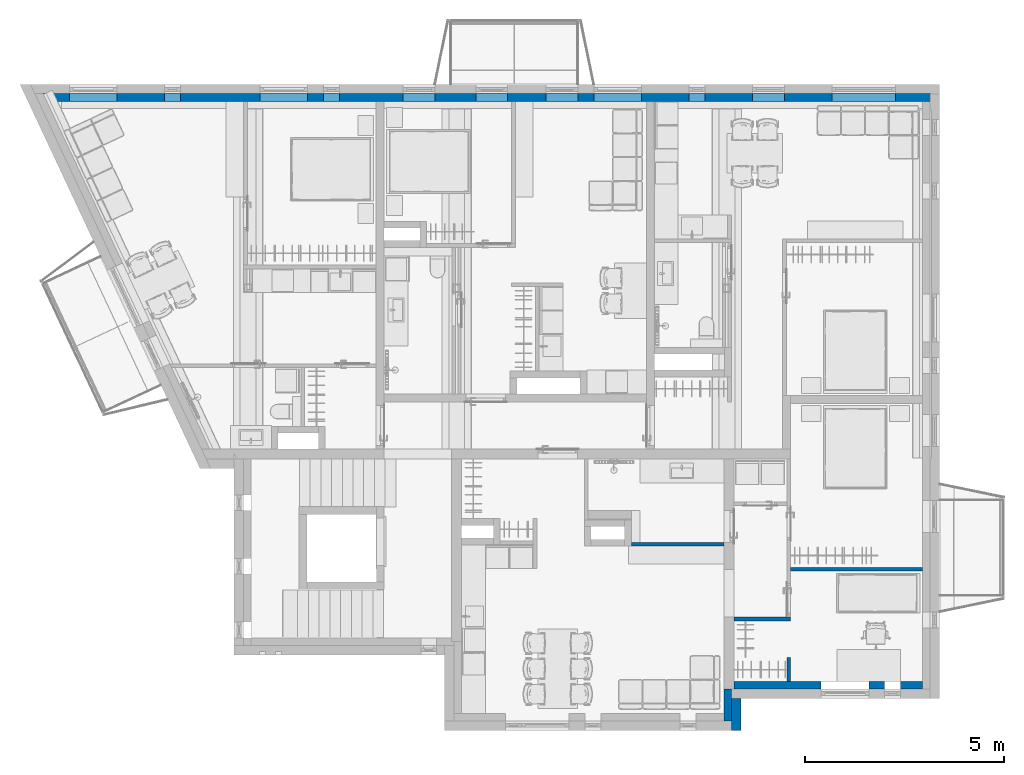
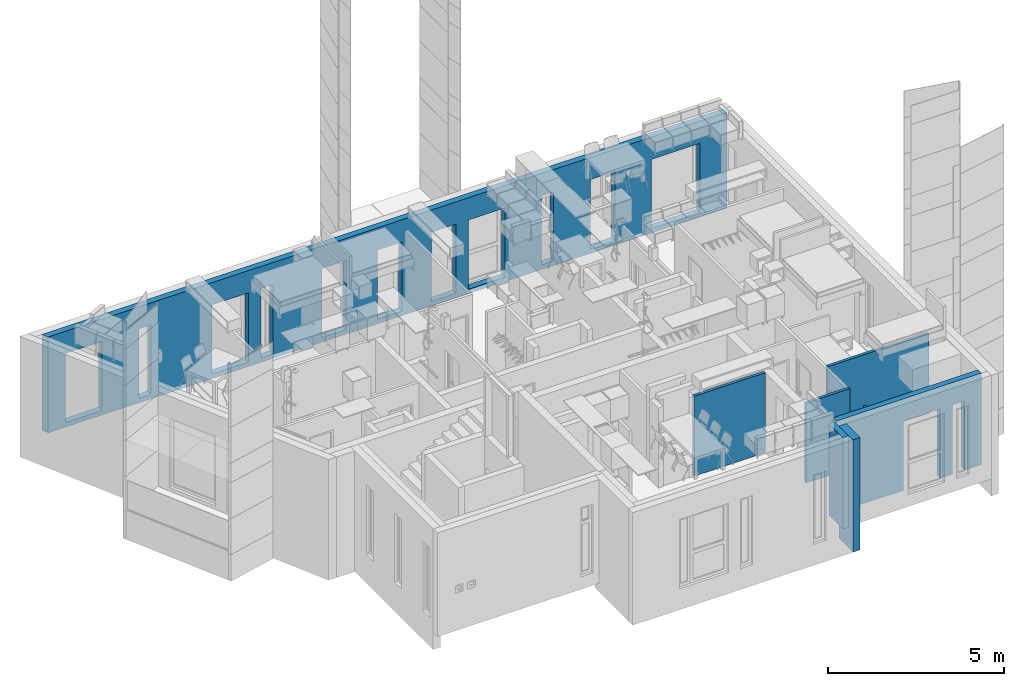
# One storey, part 6 of 125: 8 walls, 26 openings.
"""IFC2X3 building model written with IfcOpenShell, lengths in millimetres."""

from ifc_helpers import new_model, entity, si_unit, converted_unit, direction, frame, frame_2d, origin, place, context, subcontext, project, spatial, polyline, rectangle, outline, extrude, faceted_brep, material, layer, layer_set, layer_usage, type_object, element, save


model = new_model("IFC2X3")

# Units and contexts
model_context = context("Model", 3, precision=0.01, world=origin(), true_north=direction((6.123233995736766e-17, 1.0)))
plan_context = context("Plan", 3, precision=0.01, world=origin(), true_north=direction((6.123233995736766e-17, 1.0)))
body_context = subcontext(model_context, "Body", "Model", "MODEL_VIEW")
ifc_project = project(units=[si_unit("LENGTHUNIT", "METRE", prefix="MILLI"), converted_unit("PLANEANGLEUNIT", "DEGREE", entity("IfcPlaneAngleMeasure", 0.017453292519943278), si_unit("PLANEANGLEUNIT", "RADIAN"), dimensions=[0, 0, 0, 0, 0, 0, 0]), si_unit("AREAUNIT", "SQUARE_METRE")], contexts=[model_context, plan_context])

# Site, building, storey
site_placement = place(None, origin())
site = spatial("IfcSite", under=ifc_project, at=site_placement, Name="Default", CompositionType="ELEMENT")
building_placement = place(site_placement, origin())
building = spatial("IfcBuilding", under=site, at=building_placement, CompositionType="ELEMENT")
storey_placement = place(building_placement, frame((0.0, 0.0, 3125.0)))
storey = spatial("IfcBuildingStorey", under=building, at=storey_placement, Name="2K", CompositionType="ELEMENT", Elevation=3125.0)

# Wall, openings
ifc_material_1 = material(Name="_K. Väisviimistlus. Krohv. Valge")
ifc_layer_1 = layer(ifc_material_1, 5.0)
ifc_material_2 = material(Name="_K. Müüritis. Väikeplokk. Betoon-õõnesplokk")
ifc_layer_2 = layer(ifc_material_2, 190.00000000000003)
ifc_layer_3 = layer(ifc_material_1, 5.0)
ifc_layer_set_1 = layer_set([ifc_layer_1, ifc_layer_2, ifc_layer_3], Name="Basic Wall:SS-01. 190")
ifc_layer_usage_1 = layer_usage(ifc_layer_set_1, "AXIS2", "NEGATIVE", 100.00000000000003)
wall_type_1 = type_object("IfcWallType", Name="Basic Wall:SS-01. 190", PredefinedType="STANDARD", material=ifc_layer_set_1)
wall_1_placement = place(storey_placement, frame((-5235.819995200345, 15500.0, -154.99979782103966)))
wall_1 = element("IfcWallStandardCase", 1, at=wall_1_placement, inside=storey, type_object=wall_type_1, material=ifc_layer_usage_1, Name="Basic Wall:SS-01. 190", ObjectType="Basic Wall:SS-01. 190", context=body_context, shape_type="SweptSolid", body=[
    extrude(outline(polyline([(22335.81999520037, -100.0), (22335.81999520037, 90.0), (22335.81999520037, 100.0), (22205.81999521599, 100.0), (462.2403184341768, 100.0), (0.0, 100.0), (93.74999994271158, -100.0), (15185.819995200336, -100.0), (15385.819995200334, -100.0), (22135.819995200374, -100.0), (22325.819995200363, -100.0), (22335.81999520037, -100.0)])), origin(), (0.0, 0.0, 1.0), 3324.999797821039),
])
opening_1_placement = place(wall_1_placement, frame((5235.819995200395, -15500.0, 154.99979782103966)))
element("IfcOpeningElement", 2, at=opening_1_placement, cuts=wall_1, Name="Basic Wall:SS-01. 190", ObjectType="Opening", context=body_context, shape_type="Brep", body=[
    faceted_brep([(-1775.0, 15850.0, 2400.0), (-1775.0, 15156.0, 2400.0), (-1775.0, 15156.0, 0.0), (-1775.0, 15740.0, 0.0), (-1775.0, 15750.0, 0.0), (-1775.0, 15850.0, 0.0), (-2175.0, 15850.0, 2400.0), (-2175.0, 15156.0, 2400.0), (-2175.0, 15850.0, 0.0), (-2175.0, 15750.0, 0.0), (-2175.0, 15740.0, 0.0), (-2175.0, 15156.0, 0.0)], [[[0, 1, 2, 3, 4, 5]], [[6, 7, 1, 0]], [[8, 9, 10, 11, 7, 6]], [[5, 4, 3, 2, 11, 10, 9, 8]], [[6, 0, 5, 8]], [[7, 11, 2, 1]]]),
])
opening_2_placement = place(wall_1_placement, frame((5235.819995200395, -15500.0, 154.99979782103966)))
element("IfcOpeningElement", 3, at=opening_2_placement, cuts=wall_1, Name="Basic Wall:SS-01. 190", ObjectType="Opening", context=body_context, shape_type="Brep", body=[
    faceted_brep([(225.0, 15850.0, 2400.0), (1425.0, 15850.0, 2400.0), (1425.0, 15850.0, 0.0), (225.0, 15850.0, 0.0), (1425.0, 15156.0, 2400.0), (1425.0, 15156.0, 0.0), (1425.0, 15740.0, 0.0), (1425.0, 15750.0, 0.0), (225.0, 15156.0, 2400.0), (225.0, 15750.0, 0.0), (225.0, 15740.0, 0.0), (225.0, 15156.0, 0.0)], [[[0, 1, 2, 3]], [[1, 4, 5, 6, 7, 2]], [[0, 8, 4, 1]], [[3, 9, 10, 11, 8, 0]], [[2, 7, 6, 5, 11, 10, 9, 3]], [[8, 11, 5, 4]]]),
])
opening_3_placement = place(wall_1_placement, frame((5235.819995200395, -15500.0, 154.99979782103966)))
element("IfcOpeningElement", 4, at=opening_3_placement, cuts=wall_1, Name="Basic Wall:SS-01. 190", ObjectType="Opening", context=body_context, shape_type="Brep", body=[
    faceted_brep([(-4575.0, 15850.0, 2400.0), (-3375.0, 15850.0, 2400.0), (-3375.0, 15850.0, 0.0), (-4575.0, 15850.0, 0.0), (-3375.0, 15156.0, 2400.0), (-3375.0, 15156.0, 0.0), (-3375.0, 15740.0, 0.0), (-3375.0, 15750.0, 0.0), (-4575.0, 15156.0, 2400.0), (-4575.0, 15750.0, 0.0), (-4575.0, 15740.0, 0.0), (-4575.0, 15156.0, 0.0)], [[[0, 1, 2, 3]], [[1, 4, 5, 6, 7, 2]], [[0, 8, 4, 1]], [[3, 9, 10, 11, 8, 0]], [[2, 7, 6, 5, 11, 10, 9, 3]], [[8, 11, 5, 4]]]),
])
opening_4_placement = place(wall_1_placement, frame((5235.819995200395, -15500.0, 154.99979782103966)))
element("IfcOpeningElement", 5, at=opening_4_placement, cuts=wall_1, Name="Basic Wall:SS-01. 190", ObjectType="Opening", context=body_context, shape_type="Brep", body=[
    faceted_brep([(2225.0, 15850.0, 2400.0), (2225.0, 15156.0, 2400.0), (2225.0, 15156.0, 0.0), (2225.0, 15740.0, 0.0), (2225.0, 15750.0, 0.0), (2225.0, 15850.0, 0.0), (1825.0, 15850.0, 2400.0), (1825.0, 15156.0, 2400.0), (1825.0, 15850.0, 0.0), (1825.0, 15750.0, 0.0), (1825.0, 15740.0, 0.0), (1825.0, 15156.0, 0.0)], [[[0, 1, 2, 3, 4, 5]], [[6, 7, 1, 0]], [[8, 9, 10, 11, 7, 6]], [[5, 4, 3, 2, 11, 10, 9, 8]], [[6, 0, 5, 8]], [[7, 11, 2, 1]]]),
])
opening_5_placement = place(wall_1_placement, frame((5235.819995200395, -15500.0, 154.99979782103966)))
element("IfcOpeningElement", 6, at=opening_5_placement, cuts=wall_1, Name="Basic Wall:SS-01. 190", ObjectType="Opening", context=body_context, shape_type="Brep", body=[
    faceted_brep([(4625.0, 15850.0, 2400.0), (4625.0, 15156.0, 2400.0), (4625.0, 15156.0, 0.0), (4625.0, 15740.0, 0.0), (4625.0, 15750.0, 0.0), (4625.0, 15850.0, 0.0), (3825.0, 15850.0, 2400.0), (3825.0, 15156.0, 2400.0), (3825.0, 15850.0, 0.0), (3825.0, 15750.0, 0.0), (3825.0, 15740.0, 0.0), (3825.0, 15156.0, 0.0)], [[[0, 1, 2, 3, 4, 5]], [[6, 7, 1, 0]], [[8, 9, 10, 11, 7, 6]], [[5, 4, 3, 2, 11, 10, 9, 8]], [[6, 0, 5, 8]], [[7, 11, 2, 1]]]),
])
opening_6_placement = place(wall_1_placement, frame((5235.819995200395, -15500.0, 154.99979782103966)))
element("IfcOpeningElement", 7, at=opening_6_placement, cuts=wall_1, Name="Basic Wall:SS-01. 190", ObjectType="Opening", context=body_context, shape_type="Brep", body=[
    faceted_brep([(6455.0, 15850.0, 2400.0), (6455.0, 15156.0, 2400.0), (6455.0, 15156.0, 0.0), (6455.0, 15740.0, 0.0), (6455.0, 15750.0, 0.0), (6455.0, 15850.0, 0.0), (5655.0, 15850.0, 2400.0), (5655.0, 15156.0, 2400.0), (5655.0, 15850.0, 0.0), (5655.0, 15750.0, 0.0), (5655.0, 15740.0, 0.0), (5655.0, 15156.0, 0.0)], [[[0, 1, 2, 3, 4, 5]], [[6, 7, 1, 0]], [[8, 9, 10, 11, 7, 6]], [[5, 4, 3, 2, 11, 10, 9, 8]], [[6, 0, 5, 8]], [[7, 11, 2, 1]]]),
])
opening_7_placement = place(wall_1_placement, frame((5235.819995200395, -15500.0, 154.99979782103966)))
element("IfcOpeningElement", 8, at=opening_7_placement, cuts=wall_1, Name="Basic Wall:SS-01. 190", ObjectType="Opening", context=body_context, shape_type="Brep", body=[
    faceted_brep([(8225.0, 15850.0, 2400.0), (8225.0, 15156.0, 2400.0), (8225.0, 15156.0, 0.0), (8225.0, 15740.0, 0.0), (8225.0, 15750.0, 0.0), (8225.0, 15850.0, 0.0), (7425.0, 15850.0, 2400.0), (7425.0, 15156.0, 2400.0), (7425.0, 15850.0, 0.0), (7425.0, 15750.0, 0.0), (7425.0, 15740.0, 0.0), (7425.0, 15156.0, 0.0)], [[[0, 1, 2, 3, 4, 5]], [[6, 7, 1, 0]], [[8, 9, 10, 11, 7, 6]], [[5, 4, 3, 2, 11, 10, 9, 8]], [[6, 0, 5, 8]], [[7, 11, 2, 1]]]),
])
opening_8_placement = place(wall_1_placement, frame((5235.819995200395, -15500.0, 154.99979782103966)))
element("IfcOpeningElement", 9, at=opening_8_placement, cuts=wall_1, Name="Basic Wall:SS-01. 190", ObjectType="Opening", context=body_context, shape_type="Brep", body=[
    faceted_brep([(9825.0, 15850.0, 2400.0), (9825.0, 15156.0, 2400.0), (9825.0, 15156.0, 0.0), (9825.0, 15740.0, 0.0), (9825.0, 15750.0, 0.0), (9825.0, 15850.0, 0.0), (8625.0, 15850.0, 2400.0), (8625.0, 15156.0, 2400.0), (8625.0, 15850.0, 0.0), (8625.0, 15750.0, 0.0), (8625.0, 15740.0, 0.0), (8625.0, 15156.0, 0.0)], [[[0, 1, 2, 3, 4, 5]], [[6, 7, 1, 0]], [[8, 9, 10, 11, 7, 6]], [[5, 4, 3, 2, 11, 10, 9, 8]], [[6, 0, 5, 8]], [[7, 11, 2, 1]]]),
])
opening_9_placement = place(wall_1_placement, frame((5235.819995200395, -15500.0, 154.99979782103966)))
element("IfcOpeningElement", 10, at=opening_9_placement, cuts=wall_1, Name="Basic Wall:SS-01. 190", ObjectType="Opening", context=body_context, shape_type="Brep", body=[
    faceted_brep([(11425.0, 15850.0, 2400.0), (11425.0, 15156.0, 2400.0), (11425.0, 15156.0, 0.0), (11425.0, 15740.0, 0.0), (11425.0, 15750.0, 0.0), (11425.0, 15850.0, 0.0), (11025.0, 15850.0, 2400.0), (11025.0, 15156.0, 2400.0), (11025.0, 15850.0, 0.0), (11025.0, 15750.0, 0.0), (11025.0, 15740.0, 0.0), (11025.0, 15156.0, 0.0)], [[[0, 1, 2, 3, 4, 5]], [[6, 7, 1, 0]], [[8, 9, 10, 11, 7, 6]], [[5, 4, 3, 2, 11, 10, 9, 8]], [[6, 0, 5, 8]], [[7, 11, 2, 1]]]),
])
opening_10_placement = place(wall_1_placement, frame((5235.819995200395, -15500.0, 154.99979782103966)))
element("IfcOpeningElement", 11, at=opening_10_placement, cuts=wall_1, Name="Basic Wall:SS-01. 190", ObjectType="Opening", context=body_context, shape_type="Brep", body=[
    faceted_brep([(13425.0, 15850.0, 2400.0), (13425.0, 15156.0, 2400.0), (13425.0, 15156.0, 0.0), (13425.0, 15740.0, 0.0), (13425.0, 15750.0, 0.0), (13425.0, 15850.0, 0.0), (12625.0, 15850.0, 2400.0), (12625.0, 15156.0, 2400.0), (12625.0, 15850.0, 0.0), (12625.0, 15750.0, 0.0), (12625.0, 15740.0, 0.0), (12625.0, 15156.0, 0.0)], [[[0, 1, 2, 3, 4, 5]], [[6, 7, 1, 0]], [[8, 9, 10, 11, 7, 6]], [[5, 4, 3, 2, 11, 10, 9, 8]], [[6, 0, 5, 8]], [[7, 11, 2, 1]]]),
])
opening_11_placement = place(wall_1_placement, frame((5235.819995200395, -15500.0, 154.99979782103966)))
element("IfcOpeningElement", 12, at=opening_11_placement, cuts=wall_1, Name="Basic Wall:SS-01. 190", ObjectType="Opening", context=body_context, shape_type="Brep", body=[
    faceted_brep([(16225.0, 15850.0, 2400.0), (16225.0, 15156.0, 2400.0), (16225.0, 15156.0, 0.0), (16225.0, 15740.0, 0.0), (16225.0, 15750.0, 0.0), (16225.0, 15850.0, 0.0), (14625.0, 15850.0, 2400.0), (14625.0, 15156.0, 2400.0), (14625.0, 15850.0, 0.0), (14625.0, 15750.0, 0.0), (14625.0, 15740.0, 0.0), (14625.0, 15156.0, 0.0)], [[[0, 1, 2, 3, 4, 5]], [[6, 7, 1, 0]], [[8, 9, 10, 11, 7, 6]], [[5, 4, 3, 2, 11, 10, 9, 8]], [[6, 0, 5, 8]], [[7, 11, 2, 1]]]),
])
opening_12_placement = place(wall_1_placement, frame((5235.819995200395, -15500.0, 3324.9997978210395)))
element("IfcOpeningElement", 13, at=opening_12_placement, cuts=wall_1, Name="Basic Wall:SS-01. 190", ObjectType="Opening", context=body_context, shape_type="Brep", body=[
    faceted_brep([(-2255.0, 15850.0, 2400.0), (-2255.0, 15156.0, 2400.0), (-2255.0, 15156.0, 0.0), (-2255.0, 15740.0, 0.0), (-2255.0, 15750.0, 0.0), (-2255.0, 15850.0, 0.0), (-3455.0, 15850.0, 2400.0), (-3455.0, 15156.0, 2400.0), (-3455.0, 15850.0, 0.0), (-3455.0, 15750.0, 0.0), (-3455.0, 15740.0, 0.0), (-3455.0, 15156.0, 0.0)], [[[0, 1, 2, 3, 4, 5]], [[6, 7, 1, 0]], [[8, 9, 10, 11, 7, 6]], [[5, 4, 3, 2, 11, 10, 9, 8]], [[6, 0, 5, 8]], [[7, 11, 2, 1]]]),
])
opening_13_placement = place(wall_1_placement, frame((5235.819995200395, -15500.0, 3324.9997978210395)))
element("IfcOpeningElement", 14, at=opening_13_placement, cuts=wall_1, Name="Basic Wall:SS-01. 190", ObjectType="Opening", context=body_context, shape_type="Brep", body=[
    faceted_brep([(1745.0, 15850.0, 2400.0), (1745.0, 15156.0, 2400.0), (1745.0, 15156.0, 0.0), (1745.0, 15740.0, 0.0), (1745.0, 15750.0, 0.0), (1745.0, 15850.0, 0.0), (545.0, 15850.0, 2400.0), (545.0, 15156.0, 2400.0), (545.0, 15850.0, 0.0), (545.0, 15750.0, 0.0), (545.0, 15740.0, 0.0), (545.0, 15156.0, 0.0)], [[[0, 1, 2, 3, 4, 5]], [[6, 7, 1, 0]], [[8, 9, 10, 11, 7, 6]], [[5, 4, 3, 2, 11, 10, 9, 8]], [[6, 0, 5, 8]], [[7, 11, 2, 1]]]),
])
opening_14_placement = place(wall_1_placement, frame((5235.819995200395, -15500.0, 3324.9997978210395)))
element("IfcOpeningElement", 15, at=opening_14_placement, cuts=wall_1, Name="Basic Wall:SS-01. 190", ObjectType="Opening", context=body_context, shape_type="Brep", body=[
    faceted_brep([(4625.0, 15850.0, 2400.0), (4625.0, 15156.0, 2400.0), (4625.0, 15156.0, 0.0), (4625.0, 15740.0, 0.0), (4625.0, 15750.0, 0.0), (4625.0, 15850.0, 0.0), (3825.0, 15850.0, 2400.0), (3825.0, 15156.0, 2400.0), (3825.0, 15850.0, 0.0), (3825.0, 15750.0, 0.0), (3825.0, 15740.0, 0.0), (3825.0, 15156.0, 0.0)], [[[0, 1, 2, 3, 4, 5]], [[6, 7, 1, 0]], [[8, 9, 10, 11, 7, 6]], [[5, 4, 3, 2, 11, 10, 9, 8]], [[6, 0, 5, 8]], [[7, 11, 2, 1]]]),
])
opening_15_placement = place(wall_1_placement, frame((5235.819995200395, -15500.0, 3324.9997978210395)))
element("IfcOpeningElement", 16, at=opening_15_placement, cuts=wall_1, Name="Basic Wall:SS-01. 190", ObjectType="Opening", context=body_context, shape_type="Brep", body=[
    faceted_brep([(6455.0, 15850.0, 2400.0), (6455.0, 15156.0, 2400.0), (6455.0, 15156.0, 0.0), (6455.0, 15740.0, 0.0), (6455.0, 15750.0, 0.0), (6455.0, 15850.0, 0.0), (5655.0, 15850.0, 2400.0), (5655.0, 15156.0, 2400.0), (5655.0, 15850.0, 0.0), (5655.0, 15750.0, 0.0), (5655.0, 15740.0, 0.0), (5655.0, 15156.0, 0.0)], [[[0, 1, 2, 3, 4, 5]], [[6, 7, 1, 0]], [[8, 9, 10, 11, 7, 6]], [[5, 4, 3, 2, 11, 10, 9, 8]], [[6, 0, 5, 8]], [[7, 11, 2, 1]]]),
])
opening_16_placement = place(wall_1_placement, frame((5235.819995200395, -15500.0, 3324.9997978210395)))
element("IfcOpeningElement", 17, at=opening_16_placement, cuts=wall_1, Name="Basic Wall:SS-01. 190", ObjectType="Opening", context=body_context, shape_type="Brep", body=[
    faceted_brep([(8225.0, 15850.0, 2400.0), (8225.0, 15156.0, 2400.0), (8225.0, 15156.0, 0.0), (8225.0, 15740.0, 0.0), (8225.0, 15750.0, 0.0), (8225.0, 15850.0, 0.0), (7425.0, 15850.0, 2400.0), (7425.0, 15156.0, 2400.0), (7425.0, 15850.0, 0.0), (7425.0, 15750.0, 0.0), (7425.0, 15740.0, 0.0), (7425.0, 15156.0, 0.0)], [[[0, 1, 2, 3, 4, 5]], [[6, 7, 1, 0]], [[8, 9, 10, 11, 7, 6]], [[5, 4, 3, 2, 11, 10, 9, 8]], [[6, 0, 5, 8]], [[7, 11, 2, 1]]]),
])
opening_17_placement = place(wall_1_placement, frame((5235.819995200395, -15500.0, 3324.9997978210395)))
element("IfcOpeningElement", 18, at=opening_17_placement, cuts=wall_1, Name="Basic Wall:SS-01. 190", ObjectType="Opening", context=body_context, shape_type="Brep", body=[
    faceted_brep([(9825.0, 15850.0, 2400.0), (9825.0, 15156.0, 2400.0), (9825.0, 15156.0, 0.0), (9825.0, 15740.0, 0.0), (9825.0, 15750.0, 0.0), (9825.0, 15850.0, 0.0), (8625.0, 15850.0, 2400.0), (8625.0, 15156.0, 2400.0), (8625.0, 15850.0, 0.0), (8625.0, 15750.0, 0.0), (8625.0, 15740.0, 0.0), (8625.0, 15156.0, 0.0)], [[[0, 1, 2, 3, 4, 5]], [[6, 7, 1, 0]], [[8, 9, 10, 11, 7, 6]], [[5, 4, 3, 2, 11, 10, 9, 8]], [[6, 0, 5, 8]], [[7, 11, 2, 1]]]),
])
opening_18_placement = place(wall_1_placement, frame((5235.819995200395, -15500.0, 3324.9997978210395)))
element("IfcOpeningElement", 19, at=opening_18_placement, cuts=wall_1, Name="Basic Wall:SS-01. 190", ObjectType="Opening", context=body_context, shape_type="Brep", body=[
    faceted_brep([(14545.0, 15850.0, 2400.0), (14545.0, 15156.0, 2400.0), (14545.0, 15156.0, 0.0), (14545.0, 15740.0, 0.0), (14545.0, 15750.0, 0.0), (14545.0, 15850.0, 0.0), (13345.0, 15850.0, 2400.0), (13345.0, 15156.0, 2400.0), (13345.0, 15850.0, 0.0), (13345.0, 15750.0, 0.0), (13345.0, 15740.0, 0.0), (13345.0, 15156.0, 0.0)], [[[0, 1, 2, 3, 4, 5]], [[6, 7, 1, 0]], [[8, 9, 10, 11, 7, 6]], [[5, 4, 3, 2, 11, 10, 9, 8]], [[6, 0, 5, 8]], [[7, 11, 2, 1]]]),
])
opening_19_placement = place(wall_1_placement, frame((5235.819995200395, -15500.0, 3324.9997978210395)))
element("IfcOpeningElement", 20, at=opening_19_placement, cuts=wall_1, Name="Basic Wall:SS-01. 190", ObjectType="Opening", context=body_context, shape_type="Brep", body=[
    faceted_brep([(-4655.0, 15850.0, 2400.0), (-4655.0, 15156.0, 2400.0), (-4655.0, 15156.0, 0.0), (-4655.0, 15740.0, 0.0), (-4655.0, 15750.0, 0.0), (-4655.0, 15850.0, 0.0), (-5055.0, 15850.0, 2400.0), (-5055.0, 15156.0, 2400.0), (-5055.0, 15850.0, 0.0), (-5055.0, 15750.0, 0.0), (-5055.0, 15740.0, 0.0), (-5055.0, 15156.0, 0.0)], [[[0, 1, 2, 3, 4, 5]], [[6, 7, 1, 0]], [[8, 9, 10, 11, 7, 6]], [[5, 4, 3, 2, 11, 10, 9, 8]], [[6, 0, 5, 8]], [[7, 11, 2, 1]]]),
])
opening_20_placement = place(wall_1_placement, frame((5235.819995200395, -15500.0, 3324.9997978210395)))
element("IfcOpeningElement", 21, at=opening_20_placement, cuts=wall_1, Name="Basic Wall:SS-01. 190", ObjectType="Opening", context=body_context, shape_type="Brep", body=[
    faceted_brep([(2545.0, 15850.0, 2400.0), (2545.0, 15156.0, 2400.0), (2545.0, 15156.0, 0.0), (2545.0, 15740.0, 0.0), (2545.0, 15750.0, 0.0), (2545.0, 15850.0, 0.0), (2145.0, 15850.0, 2400.0), (2145.0, 15156.0, 2400.0), (2145.0, 15850.0, 0.0), (2145.0, 15750.0, 0.0), (2145.0, 15740.0, 0.0), (2145.0, 15156.0, 0.0)], [[[0, 1, 2, 3, 4, 5]], [[6, 7, 1, 0]], [[8, 9, 10, 11, 7, 6]], [[5, 4, 3, 2, 11, 10, 9, 8]], [[6, 0, 5, 8]], [[7, 11, 2, 1]]]),
])
opening_21_placement = place(wall_1_placement, frame((5235.819995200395, -15500.0, 3324.9997978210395)))
element("IfcOpeningElement", 22, at=opening_21_placement, cuts=wall_1, Name="Basic Wall:SS-01. 190", ObjectType="Opening", context=body_context, shape_type="Brep", body=[
    faceted_brep([(12545.0, 15850.0, 2400.0), (12545.0, 15156.0, 2400.0), (12545.0, 15156.0, 0.0), (12545.0, 15740.0, 0.0), (12545.0, 15750.0, 0.0), (12545.0, 15850.0, 0.0), (12145.0, 15850.0, 2400.0), (12145.0, 15156.0, 2400.0), (12145.0, 15850.0, 0.0), (12145.0, 15750.0, 0.0), (12145.0, 15740.0, 0.0), (12145.0, 15156.0, 0.0)], [[[0, 1, 2, 3, 4, 5]], [[6, 7, 1, 0]], [[8, 9, 10, 11, 7, 6]], [[5, 4, 3, 2, 11, 10, 9, 8]], [[6, 0, 5, 8]], [[7, 11, 2, 1]]]),
])
opening_22_placement = place(wall_1_placement, frame((5235.819995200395, -15500.0, 3324.9997978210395)))
element("IfcOpeningElement", 23, at=opening_22_placement, cuts=wall_1, Name="Basic Wall:SS-01. 190", ObjectType="Opening", context=body_context, shape_type="Brep", body=[
    faceted_brep([(15345.0, 15850.0, 2400.0), (15345.0, 15156.0, 2400.0), (15345.0, 15156.0, 0.0), (15345.0, 15740.0, 0.0), (15345.0, 15750.0, 0.0), (15345.0, 15850.0, 0.0), (14945.0, 15850.0, 2400.0), (14945.0, 15156.0, 2400.0), (14945.0, 15850.0, 0.0), (14945.0, 15750.0, 0.0), (14945.0, 15740.0, 0.0), (14945.0, 15156.0, 0.0)], [[[0, 1, 2, 3, 4, 5]], [[6, 7, 1, 0]], [[8, 9, 10, 11, 7, 6]], [[5, 4, 3, 2, 11, 10, 9, 8]], [[6, 0, 5, 8]], [[7, 11, 2, 1]]]),
])

ifc_layer_4 = layer(ifc_material_2, 190.00000000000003)
ifc_layer_set_2 = layer_set([ifc_layer_4], Name="Basic Wall:Columbia 190mm")
ifc_layer_usage_2 = layer_usage(ifc_layer_set_2, "AXIS2", "NEGATIVE", 95.00000000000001)
wall_type_2 = type_object("IfcWallType", Name="Basic Wall:Columbia 190mm", PredefinedType="STANDARD", material=ifc_layer_set_2)
wall_2_placement = place(storey_placement, frame((16900.0, 705.0, 0.0), z_axis=(0.0, 0.0, 1.0), x_axis=(-1.0, 0.0, 0.0)))
wall_2 = element("IfcWallStandardCase", 24, at=wall_2_placement, inside=storey, type_object=wall_type_2, material=ifc_layer_usage_2, Name="Basic Wall:Columbia 190mm", ObjectType="Basic Wall:Columbia 190mm", context=body_context, shape_type="SweptSolid", body=[
    extrude(rectangle(XDim=4750.006465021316, YDim=190.0000000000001, at=frame_2d((2375.003232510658, 0.0), x_axis=(-1.0, 0.0))), origin(), (0.0, 0.0, 1.0), 3169.9999999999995),
])
opening_23_placement = place(wall_2_placement, frame((16900.0, 705.0, 0.0)))
element("IfcOpeningElement", 25, at=opening_23_placement, cuts=wall_2, Name="Basic Wall:Columbia 190mm", ObjectType="Opening", context=body_context, shape_type="Brep", body=[
    faceted_brep([(-15950.0, -350.0, 2400.0), (-15950.0, -1044.0, 2400.0), (-15950.0, -1044.0, 0.0), (-15950.0, -460.0, 0.0), (-15950.0, -450.0, 0.0), (-15950.0, -350.0, 0.0), (-16350.0, -350.0, 2400.0), (-16350.0, -1044.0, 2400.0), (-16350.0, -350.0, 0.0), (-16350.0, -450.0, 0.0), (-16350.0, -460.0, 0.0), (-16350.0, -1044.0, 0.0)], [[[0, 1, 2, 3, 4, 5]], [[6, 7, 1, 0]], [[8, 9, 10, 11, 7, 6]], [[5, 4, 3, 2, 11, 10, 9, 8]], [[6, 0, 5, 8]], [[7, 11, 2, 1]]]),
])
opening_24_placement = place(wall_2_placement, frame((16900.0, 705.0, 0.0)))
element("IfcOpeningElement", 26, at=opening_24_placement, cuts=wall_2, Name="Basic Wall:Columbia 190mm", ObjectType="Opening", context=body_context, shape_type="Brep", body=[
    faceted_brep([(-14350.0, -350.0, 2400.0), (-14350.0, -1044.0, 2400.0), (-14350.0, -1044.0, 0.0), (-14350.0, -460.0, 0.0), (-14350.0, -450.0, 0.0), (-14350.0, -350.0, 0.0), (-15550.0, -350.0, 2400.0), (-15550.0, -1044.0, 2400.0), (-15550.0, -350.0, 0.0), (-15550.0, -450.0, 0.0), (-15550.0, -460.0, 0.0), (-15550.0, -1044.0, 0.0)], [[[0, 1, 2, 3, 4, 5]], [[6, 7, 1, 0]], [[8, 9, 10, 11, 7, 6]], [[5, 4, 3, 2, 11, 10, 9, 8]], [[6, 0, 5, 8]], [[7, 11, 2, 1]]]),
])
opening_25_placement = place(wall_2_placement, frame((16900.0, 705.0, 3170.0)))
element("IfcOpeningElement", 27, at=opening_25_placement, cuts=wall_2, Name="Basic Wall:Columbia 190mm", ObjectType="Opening", context=body_context, shape_type="Brep", body=[
    faceted_brep([(-14390.0, -350.0, 2400.0), (-14390.0, -1044.0, 2400.0), (-14390.0, -1044.0, 0.0), (-14390.0, -460.0, 0.0), (-14390.0, -450.0, 0.0), (-14390.0, -350.0, 0.0), (-15590.0, -350.0, 2400.0), (-15590.0, -1044.0, 2400.0), (-15590.0, -350.0, 0.0), (-15590.0, -450.0, 0.0), (-15590.0, -460.0, 0.0), (-15590.0, -1044.0, 0.0)], [[[0, 1, 2, 3, 4, 5]], [[6, 7, 1, 0]], [[8, 9, 10, 11, 7, 6]], [[5, 4, 3, 2, 11, 10, 9, 8]], [[6, 0, 5, 8]], [[7, 11, 2, 1]]]),
])
opening_26_placement = place(wall_2_placement, frame((16900.0, 705.0, 3170.0)))
element("IfcOpeningElement", 28, at=opening_26_placement, cuts=wall_2, Name="Basic Wall:Columbia 190mm", ObjectType="Opening", context=body_context, shape_type="Brep", body=[
    faceted_brep([(-13590.0, -350.0, 2400.0), (-13590.0, -1044.0, 2400.0), (-13590.0, -1044.0, 0.0), (-13590.0, -460.0, 0.0), (-13590.0, -450.0, 0.0), (-13590.0, -350.0, 0.0), (-13990.0, -350.0, 2400.0), (-13990.0, -1044.0, 2400.0), (-13990.0, -350.0, 0.0), (-13990.0, -450.0, 0.0), (-13990.0, -460.0, 0.0), (-13990.0, -1044.0, 0.0)], [[[0, 1, 2, 3, 4, 5]], [[6, 7, 1, 0]], [[8, 9, 10, 11, 7, 6]], [[5, 4, 3, 2, 11, 10, 9, 8]], [[6, 0, 5, 8]], [[7, 11, 2, 1]]]),
])

# Walls
ifc_layer_usage_3 = layer_usage(ifc_layer_set_2, "AXIS2", "NEGATIVE", 95.00000000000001)
wall_3_placement = place(storey_placement, frame((11995.0, 610.0, 0.0), z_axis=(0.0, 0.0, 1.0), x_axis=(0.0, -1.0, 0.0)))
element("IfcWallStandardCase", 29, at=wall_3_placement, inside=storey, type_object=wall_type_2, material=ifc_layer_usage_3, Name="Basic Wall:Columbia 190mm", ObjectType="Basic Wall:Columbia 190mm", context=body_context, shape_type="SweptSolid", body=[
    extrude(rectangle(XDim=799.9999999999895, YDim=190.0000000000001, at=frame_2d((399.99999999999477, 0.0), x_axis=(-1.0, 0.0))), origin(), (0.0, 0.0, 1.0), 3169.9999999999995),
])
ifc_layer_5 = layer(ifc_material_1, 10.0)
ifc_material_3 = material(Name="_K. Soojustus. EPS Silver")
ifc_layer_6 = layer(ifc_material_3, 230.0)
ifc_layer_set_3 = layer_set([ifc_layer_5, ifc_layer_6], Name="Basic Wall:VS-01")
ifc_layer_usage_4 = layer_usage(ifc_layer_set_3, "AXIS2", "NEGATIVE", 120.0)
wall_type_3 = type_object("IfcWallType", Name="Basic Wall:VS-01", PredefinedType="STANDARD", material=ifc_layer_set_3)
wall_4_placement = place(storey_placement, frame((12210.0, 370.0, -724.6192269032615), z_axis=(0.0, 0.0, 1.0), x_axis=(0.0, -1.0, 0.0)))
element("IfcWallStandardCase", 30, at=wall_4_placement, inside=storey, type_object=wall_type_3, material=ifc_layer_usage_4, Name="Basic Wall:VS-01", ObjectType="Basic Wall:VS-01", context=body_context, shape_type="SweptSolid", body=[
    extrude(rectangle(XDim=799.9999999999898, YDim=240.00000000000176, at=frame_2d((399.9999999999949, 0.0), x_axis=(-1.0, 0.0))), origin(), (0.0, 0.0, 1.0), 3894.619226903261),
])
ifc_material_4 = material(Name="_K. Ehitusplaat. Kipsplaat. Erikõva")
ifc_layer_7 = layer(ifc_material_4, 13.000000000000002)
ifc_material_5 = material(Name="_K. Soojustus. Mineraalvill")
ifc_layer_8 = layer(ifc_material_5, 66.0)
ifc_layer_9 = layer(ifc_material_4, 13.000000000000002)
ifc_layer_set_4 = layer_set([ifc_layer_7, ifc_layer_8, ifc_layer_9], Name="Basic Wall:SS-401")
ifc_layer_usage_5 = layer_usage(ifc_layer_set_4, "AXIS2", "NEGATIVE", 46.00000000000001)
wall_type_4 = type_object("IfcWallType", Name="Basic Wall:SS-401", PredefinedType="STANDARD", material=ifc_layer_set_4)
wall_5_placement = place(storey_placement, frame((13580.0, 2373.999959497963, -20.0), z_axis=(0.0, 0.0, 1.0), x_axis=(-1.0, 0.0, 0.0)))
element("IfcWallStandardCase", 31, at=wall_5_placement, inside=storey, type_object=wall_type_4, material=ifc_layer_usage_5, Name="Basic Wall:SS-401", ObjectType="Basic Wall:SS-401", context=body_context, shape_type="SweptSolid", body=[
    extrude(rectangle(XDim=1430.006465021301, YDim=92.0000000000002, at=frame_2d((715.0032325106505, 1.4210854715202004e-14), x_axis=(-1.0, 0.0))), origin(), (0.0, 0.0, 1.0), 2769.9999999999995),
])
ifc_layer_usage_6 = layer_usage(ifc_layer_set_4, "AXIS2", "NEGATIVE", 46.00000000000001)
wall_6_placement = place(storey_placement, frame((13534.0, 800.0, -20.0), z_axis=(0.0, 0.0, 1.0), x_axis=(0.0, 1.0, 0.0)))
element("IfcWallStandardCase", 32, at=wall_6_placement, inside=storey, type_object=wall_type_4, material=ifc_layer_usage_6, Name="Basic Wall:SS-401", ObjectType="Basic Wall:SS-401", context=body_context, shape_type="SweptSolid", body=[
    extrude(rectangle(XDim=600.0000000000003, YDim=92.00000000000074, at=frame_2d((300.00000000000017, 5.009326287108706e-13), x_axis=(-1.0, 0.0))), origin(), (0.0, 0.0, 1.0), 2769.9999999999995),
])
ifc_layer_usage_7 = layer_usage(ifc_layer_set_4, "AXIS2", "NEGATIVE", 46.00000000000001)
wall_7_placement = place(storey_placement, frame((16900.0, 3626.0, -20.0), z_axis=(0.0, 0.0, 1.0), x_axis=(-1.0, 0.0, 0.0)))
element("IfcWallStandardCase", 33, at=wall_7_placement, inside=storey, type_object=wall_type_4, material=ifc_layer_usage_7, Name="Basic Wall:SS-401", ObjectType="Basic Wall:SS-401", context=body_context, shape_type="SweptSolid", body=[
    extrude(rectangle(XDim=3320.000000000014, YDim=91.99999999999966, at=frame_2d((1660.000000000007, 1.3855583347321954e-13), x_axis=(-1.0, 0.0))), origin(), (0.0, 0.0, 1.0), 2769.9999999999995),
])
ifc_layer_usage_8 = layer_usage(ifc_layer_set_4, "AXIS2", "NEGATIVE", 46.00000000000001)
wall_8_placement = place(storey_placement, frame((11899.993534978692, 4256.0, -20.0), z_axis=(0.0, 0.0, 1.0), x_axis=(-1.0, 0.0, 0.0)))
element("IfcWallStandardCase", 34, at=wall_8_placement, inside=storey, type_object=wall_type_4, material=ifc_layer_usage_8, Name="Basic Wall:SS-401", ObjectType="Basic Wall:SS-401", context=body_context, shape_type="SweptSolid", body=[
    extrude(rectangle(XDim=2329.9935349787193, YDim=91.99999999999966, at=frame_2d((1164.9967674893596, -1.9184653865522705e-13), x_axis=(-1.0, 0.0))), origin(), (0.0, 0.0, 1.0), 2769.9999999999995),
])

save(model, "model.ifc")
